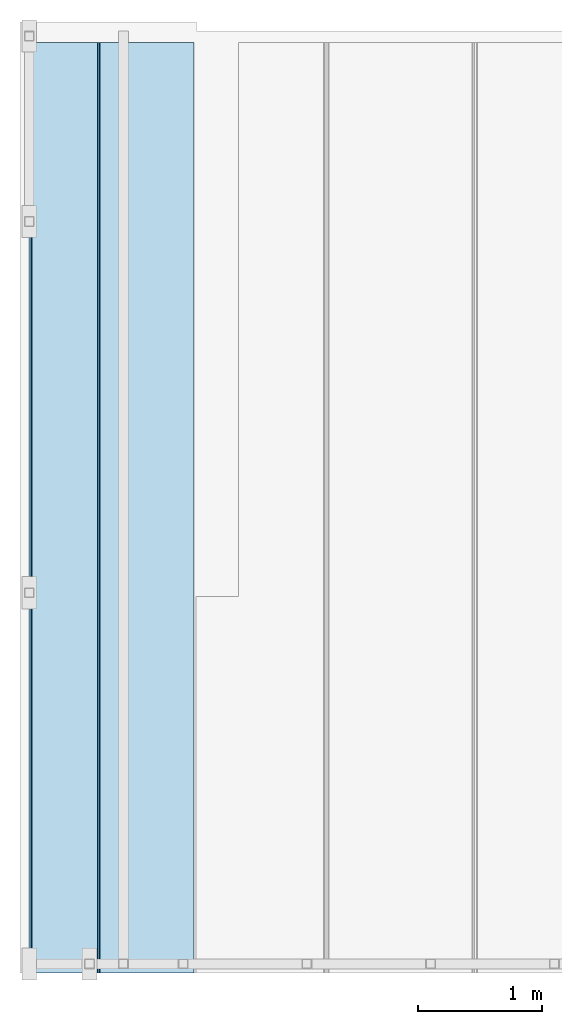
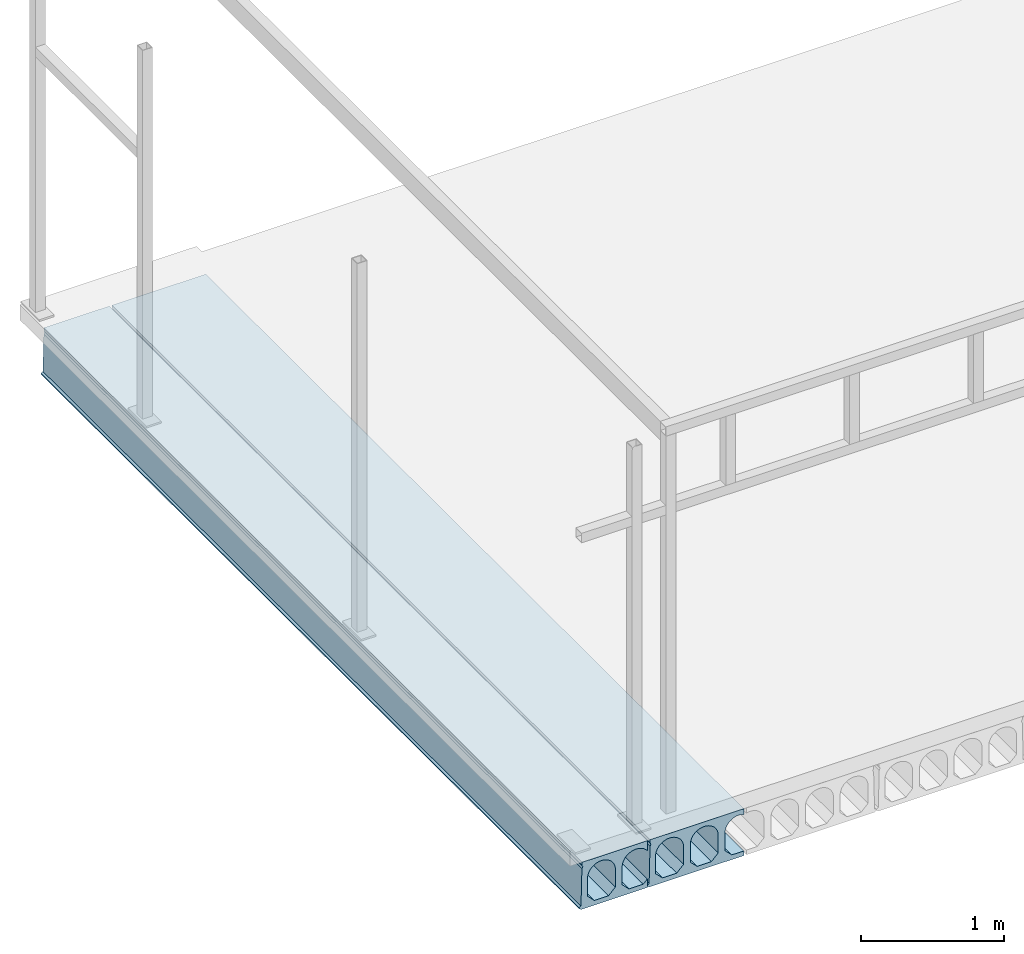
# One storey, part 6 of 20: 2 slabs.
"""IFC2X3 building model written with IfcOpenShell, lengths in millimetres."""

from ifc_helpers import new_model, entity, si_unit, converted_unit, derived_unit, direction, frame, origin_with_axes, place, context, subcontext, project, spatial, faceted_brep, type_object, element, save


model = new_model("IFC2X3")

# Units and contexts
model_context = context("Model", 3, precision=0.01, world=frame((0.0, 4.29681676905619e-09, 0.0)), true_north=direction((4.01073788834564e-13, 1.0)))
plan_context = context("Plan", 3, precision=0.01, world=frame((0.0, 4.29681676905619e-09, 0.0)), true_north=direction((4.01073788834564e-13, 1.0)))
body_context = subcontext(model_context, "Body", "Model", "MODEL_VIEW")
ifc_project = project(units=[converted_unit("PLANEANGLEUNIT", "DEGREE", entity("IfcPositiveLengthMeasure", 0.0174532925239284), si_unit("PLANEANGLEUNIT", "RADIAN"), dimensions=[0, 0, 0, 0, 0, 0, 0]), si_unit("AREAUNIT", "SQUARE_METRE"), si_unit("LENGTHUNIT", "METRE", prefix="MILLI"), si_unit("MASSUNIT", "GRAM", prefix="KILO"), si_unit("POWERUNIT", "WATT"), si_unit("PRESSUREUNIT", "PASCAL", prefix="KILO"), si_unit("FORCEUNIT", "NEWTON", prefix="KILO"), si_unit("ELECTRICVOLTAGEUNIT", "VOLT"), si_unit("ELECTRICCURRENTUNIT", "AMPERE"), si_unit("THERMODYNAMICTEMPERATUREUNIT", "DEGREE_CELSIUS"), si_unit("TIMEUNIT", "SECOND"), si_unit("VOLUMEUNIT", "CUBIC_METRE"), derived_unit("LINEARVELOCITYUNIT", [(si_unit("LENGTHUNIT", "METRE"), 1), (si_unit("TIMEUNIT", "SECOND"), -1)]), derived_unit("VOLUMETRICFLOWRATEUNIT", [(si_unit("VOLUMEUNIT", "CUBIC_METRE"), 1), (si_unit("TIMEUNIT", "SECOND"), -1)]), derived_unit("THERMALTRANSMITTANCEUNIT", [(si_unit("POWERUNIT", "WATT"), 1), (si_unit("THERMODYNAMICTEMPERATUREUNIT", "KELVIN"), -1), (si_unit("AREAUNIT", "SQUARE_METRE"), -1)]), derived_unit("SOUNDPRESSUREUNIT", [(si_unit("PRESSUREUNIT", "PASCAL"), 1)])], contexts=[model_context, plan_context])

# Site, building, storey
site_placement = place(None, frame((0.0, -4.29681676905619e-09, 0.0), z_axis=(0.0, 0.0, 1.0), x_axis=(1.0, 0.0, 0.0)))
site = spatial("IfcSite", under=ifc_project, at=site_placement, Name="Gardermoen", CompositionType="ELEMENT")
building_placement = place(site_placement, frame((0.0, 4.29681676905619e-09, 0.0), z_axis=(0.0, 0.0, 1.0), x_axis=(1.0, 0.0, 0.0)))
building = spatial("IfcBuilding", under=site, at=building_placement, Name="TS", CompositionType="ELEMENT")
storey_placement = place(building_placement, origin_with_axes())
storey = spatial("IfcBuildingStorey", under=building, at=storey_placement, Name="D", CompositionType="ELEMENT", Elevation=0.0)

# Slabs
slab_type = type_object("IfcSlabType", Name="HD400", PredefinedType="NOTDEFINED")
slab_1_placement = place(storey_placement, frame((595599.999766, 396739.995625, 203600.0), z_axis=(0.0, 0.0, 1.0), x_axis=(0.0, 1.0, 0.0)))
element("IfcSlab", 1, at=slab_1_placement, inside=storey, type_object=slab_type, Name="HULLDEKKE", ObjectType="HD400", PredefinedType="FLOOR", context=body_context, shape_type="Brep", body=[
    faceted_brep([(996.504375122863, 51.2216926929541, 116.598930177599), (996.504375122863, 49.9964178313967, 114.882825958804), (8520.0, 49.9964178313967, 114.882825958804), (8520.0, 51.2216926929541, 116.598930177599), (996.504375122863, 57.2310600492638, 123.694176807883), (8520.0, 57.2310600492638, 123.694176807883), (996.504375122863, 63.8058231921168, 130.268939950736), (8520.0, 63.8058231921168, 130.268939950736), (996.504375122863, 70.9010698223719, 136.278307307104), (8520.0, 70.9010698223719, 136.278307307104), (996.504375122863, 78.4683322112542, 141.681228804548), (8520.0, 78.4683322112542, 141.681228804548), (996.504375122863, 86.4559182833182, 146.440797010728), (8520.0, 86.4559182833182, 146.440797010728), (996.504375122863, 94.8092647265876, 150.524499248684), (8520.0, 94.8092647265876, 150.524499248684), (996.504375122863, 103.471309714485, 153.904439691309), (8520.0, 103.471309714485, 153.904439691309), (996.504375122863, 112.382882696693, 156.55752991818), (8520.0, 112.382882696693, 156.55752991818), (996.504375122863, 121.483108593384, 158.465646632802), (8520.0, 121.483108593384, 158.465646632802), (996.504375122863, 130.709823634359, 159.615755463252), (8520.0, 130.709823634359, 159.615755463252), (996.504375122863, 140.0, 160.0), (8520.0, 140.0, 160.0), (996.504375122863, 149.290176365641, 159.615755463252), (8520.0, 149.290176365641, 159.615755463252), (996.504375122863, 158.516891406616, 158.465646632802), (8520.0, 158.516891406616, 158.465646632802), (996.504375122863, 167.617117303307, 156.55752991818), (8520.0, 167.617117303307, 156.55752991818), (996.504375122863, 176.528690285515, 153.904439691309), (8520.0, 176.528690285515, 153.904439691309), (996.504375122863, 185.190735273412, 150.524499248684), (8520.0, 185.190735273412, 150.524499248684), (996.504375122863, 193.544081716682, 146.440797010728), (8520.0, 193.544081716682, 146.440797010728), (996.504375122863, 201.531667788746, 141.681228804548), (8520.0, 201.531667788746, 141.681228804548), (996.504375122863, 209.098930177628, 136.278307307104), (8520.0, 209.098930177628, 136.278307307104), (996.504375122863, 216.194176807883, 130.268939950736), (8520.0, 216.194176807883, 130.268939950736), (996.504375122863, 222.768939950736, 123.694176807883), (8520.0, 222.768939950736, 123.694176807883), (996.504375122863, 228.778307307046, 116.598930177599), (8520.0, 228.778307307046, 116.598930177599), (996.504375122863, 234.181228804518, 109.031667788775), (8520.0, 234.181228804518, 109.031667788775), (996.504375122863, 238.940797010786, 101.044081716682), (8520.0, 238.940797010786, 101.044081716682), (996.504375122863, 243.024499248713, 92.6907352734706), (8520.0, 243.024499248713, 92.6907352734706), (996.504375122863, 246.404439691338, 84.028690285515), (8520.0, 246.404439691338, 84.028690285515), (996.504375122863, 249.057529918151, 75.1171173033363), (8520.0, 249.057529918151, 75.1171173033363), (996.504375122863, 250.965646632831, 66.0168914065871), (8520.0, 250.965646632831, 66.0168914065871), (996.504375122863, 252.115755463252, 56.7901763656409), (8520.0, 252.115755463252, 56.7901763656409), (996.504375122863, 252.5, 47.5), (8520.0, 252.5, 47.5), (996.504375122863, 252.5, -105.0), (8520.0, 252.5, -105.0), (996.504375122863, 197.5, -160.0), (8520.0, 197.5, -160.0), (996.504375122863, 82.5, -160.0), (8520.0, 82.5, -160.0), (996.504375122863, 49.9964178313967, -127.496417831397), (8520.0, 49.9964178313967, -127.496417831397), (996.504375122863, 49.9964178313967, -200.0), (8520.0, 49.9964178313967, -200.0), (996.504375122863, 583.380004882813, -200.0), (8520.0, 583.380004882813, -200.0), (996.504375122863, 600.0, -190.0), (8520.0, 600.0, -190.0), (996.504375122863, 600.0, -180.0), (8520.0, 600.0, -180.0), (996.504375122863, 585.0, -170.0), (8520.0, 585.0, -170.0), (996.504375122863, 577.5, 145.0), (8520.0, 577.5, 145.0), (996.504375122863, 570.0, 160.0), (8520.0, 570.0, 160.0), (996.504375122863, 577.5, 175.0), (8520.0, 577.5, 175.0), (996.504375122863, 577.5, 200.0), (8520.0, 577.5, 200.0), (996.504375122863, 307.5, -105.0), (996.504375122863, 362.5, -160.0), (8520.0, 362.5, -160.0), (8520.0, 307.5, -105.0), (996.504375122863, 307.5, 47.5), (8520.0, 307.5, 47.5), (996.504375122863, 307.884244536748, 56.7901763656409), (8520.0, 307.884244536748, 56.7901763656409), (996.504375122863, 309.034353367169, 66.0168914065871), (8520.0, 309.034353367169, 66.0168914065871), (996.504375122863, 310.942470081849, 75.1171173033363), (8520.0, 310.942470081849, 75.1171173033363), (996.504375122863, 313.595560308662, 84.028690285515), (8520.0, 313.595560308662, 84.028690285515), (996.504375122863, 316.975500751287, 92.6907352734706), (8520.0, 316.975500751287, 92.6907352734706), (996.504375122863, 321.059202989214, 101.044081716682), (8520.0, 321.059202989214, 101.044081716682), (996.504375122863, 325.818771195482, 109.031667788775), (8520.0, 325.818771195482, 109.031667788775), (996.504375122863, 331.221692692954, 116.598930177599), (8520.0, 331.221692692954, 116.598930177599), (996.504375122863, 337.231060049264, 123.694176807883), (8520.0, 337.231060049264, 123.694176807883), (996.504375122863, 343.805823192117, 130.268939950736), (8520.0, 343.805823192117, 130.268939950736), (996.504375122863, 350.901069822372, 136.278307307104), (8520.0, 350.901069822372, 136.278307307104), (996.504375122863, 358.468332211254, 141.681228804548), (8520.0, 358.468332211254, 141.681228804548), (996.504375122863, 366.455918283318, 146.440797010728), (8520.0, 366.455918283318, 146.440797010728), (996.504375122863, 374.809264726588, 150.524499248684), (8520.0, 374.809264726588, 150.524499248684), (996.504375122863, 383.471309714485, 153.904439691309), (8520.0, 383.471309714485, 153.904439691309), (996.504375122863, 392.382882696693, 156.55752991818), (8520.0, 392.382882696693, 156.55752991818), (996.504375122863, 401.483108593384, 158.465646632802), (8520.0, 401.483108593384, 158.465646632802), (996.504375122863, 410.709823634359, 159.615755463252), (8520.0, 410.709823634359, 159.615755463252), (996.504375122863, 420.0, 160.0), (8520.0, 420.0, 160.0), (996.504375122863, 429.290176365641, 159.615755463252), (8520.0, 429.290176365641, 159.615755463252), (996.504375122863, 438.516891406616, 158.465646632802), (8520.0, 438.516891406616, 158.465646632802), (996.504375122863, 447.617117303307, 156.55752991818), (8520.0, 447.617117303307, 156.55752991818), (996.504375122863, 456.528690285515, 153.904439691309), (8520.0, 456.528690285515, 153.904439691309), (996.504375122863, 465.190735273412, 150.524499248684), (8520.0, 465.190735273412, 150.524499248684), (996.504375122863, 473.544081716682, 146.440797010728), (8520.0, 473.544081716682, 146.440797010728), (996.504375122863, 481.531667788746, 141.681228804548), (8520.0, 481.531667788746, 141.681228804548), (996.504375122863, 489.098930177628, 136.278307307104), (8520.0, 489.098930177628, 136.278307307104), (996.504375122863, 496.194176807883, 130.268939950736), (8520.0, 496.194176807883, 130.268939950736), (996.504375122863, 502.768939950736, 123.694176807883), (8520.0, 502.768939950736, 123.694176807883), (996.504375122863, 508.778307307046, 116.598930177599), (8520.0, 508.778307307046, 116.598930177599), (996.504375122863, 514.181228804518, 109.031667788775), (8520.0, 514.181228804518, 109.031667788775), (996.504375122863, 518.940797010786, 101.044081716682), (8520.0, 518.940797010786, 101.044081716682), (996.504375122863, 523.024499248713, 92.6907352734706), (8520.0, 523.024499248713, 92.6907352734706), (996.504375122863, 526.404439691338, 84.028690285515), (8520.0, 526.404439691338, 84.028690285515), (996.504375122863, 529.057529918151, 75.1171173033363), (8520.0, 529.057529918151, 75.1171173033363), (996.504375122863, 530.965646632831, 66.0168914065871), (8520.0, 530.965646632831, 66.0168914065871), (996.504375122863, 532.115755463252, 56.7901763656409), (8520.0, 532.115755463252, 56.7901763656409), (996.504375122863, 532.5, 47.5), (8520.0, 532.5, 47.5), (996.504375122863, 532.5, -105.0), (8520.0, 532.5, -105.0), (996.504375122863, 477.5, -160.0), (8520.0, 477.5, -160.0), (8520.0, 49.9964178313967, 200.0), (996.504375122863, 49.9964178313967, 200.0)], [[[0, 1, 2, 3]], [[4, 0, 3, 5]], [[6, 4, 5, 7]], [[8, 6, 7, 9]], [[10, 8, 9, 11]], [[12, 10, 11, 13]], [[14, 12, 13, 15]], [[16, 14, 15, 17]], [[18, 16, 17, 19]], [[20, 18, 19, 21]], [[22, 20, 21, 23]], [[24, 22, 23, 25]], [[26, 24, 25, 27]], [[28, 26, 27, 29]], [[30, 28, 29, 31]], [[32, 30, 31, 33]], [[34, 32, 33, 35]], [[36, 34, 35, 37]], [[38, 36, 37, 39]], [[40, 38, 39, 41]], [[42, 40, 41, 43]], [[44, 42, 43, 45]], [[46, 44, 45, 47]], [[48, 46, 47, 49]], [[50, 48, 49, 51]], [[52, 50, 51, 53]], [[54, 52, 53, 55]], [[56, 54, 55, 57]], [[58, 56, 57, 59]], [[60, 58, 59, 61]], [[62, 60, 61, 63]], [[64, 62, 63, 65]], [[66, 64, 65, 67]], [[68, 66, 67, 69]], [[70, 68, 69, 71]], [[72, 70, 71, 73]], [[74, 72, 73, 75]], [[76, 74, 75, 77]], [[78, 76, 77, 79]], [[80, 78, 79, 81]], [[82, 80, 81, 83]], [[84, 82, 83, 85]], [[86, 84, 85, 87]], [[88, 86, 87, 89]], [[90, 91, 92, 93]], [[94, 90, 93, 95]], [[96, 94, 95, 97]], [[98, 96, 97, 99]], [[100, 98, 99, 101]], [[102, 100, 101, 103]], [[104, 102, 103, 105]], [[106, 104, 105, 107]], [[108, 106, 107, 109]], [[110, 108, 109, 111]], [[112, 110, 111, 113]], [[114, 112, 113, 115]], [[116, 114, 115, 117]], [[118, 116, 117, 119]], [[120, 118, 119, 121]], [[122, 120, 121, 123]], [[124, 122, 123, 125]], [[126, 124, 125, 127]], [[128, 126, 127, 129]], [[130, 128, 129, 131]], [[132, 130, 131, 133]], [[134, 132, 133, 135]], [[136, 134, 135, 137]], [[138, 136, 137, 139]], [[140, 138, 139, 141]], [[142, 140, 141, 143]], [[144, 142, 143, 145]], [[146, 144, 145, 147]], [[148, 146, 147, 149]], [[150, 148, 149, 151]], [[152, 150, 151, 153]], [[154, 152, 153, 155]], [[156, 154, 155, 157]], [[158, 156, 157, 159]], [[160, 158, 159, 161]], [[162, 160, 161, 163]], [[164, 162, 163, 165]], [[166, 164, 165, 167]], [[168, 166, 167, 169]], [[170, 168, 169, 171]], [[172, 170, 171, 173]], [[174, 172, 173, 175]], [[2, 176, 89, 87, 85, 83, 81, 79, 77, 75, 73, 71, 69, 67, 65, 63, 61, 59, 57, 55, 53, 51, 49, 47, 45, 43, 41, 39, 37, 35, 33, 31, 29, 27, 25, 23, 21, 19, 17, 15, 13, 11, 9, 7, 5, 3], [92, 175, 173, 171, 169, 167, 165, 163, 161, 159, 157, 155, 153, 151, 149, 147, 145, 143, 141, 139, 137, 135, 133, 131, 129, 127, 125, 123, 121, 119, 117, 115, 113, 111, 109, 107, 105, 103, 101, 99, 97, 95, 93]], [[91, 174, 175, 92]], [[177, 88, 89, 176]], [[1, 177, 176, 2]], [[4, 6, 8, 10, 12, 14, 16, 18, 20, 22, 24, 26, 28, 30, 32, 34, 36, 38, 40, 42, 44, 46, 48, 50, 52, 54, 56, 58, 60, 62, 64, 66, 68, 70, 72, 74, 76, 78, 80, 82, 84, 86, 88, 177, 1, 0], [94, 96, 98, 100, 102, 104, 106, 108, 110, 112, 114, 116, 118, 120, 122, 124, 126, 128, 130, 132, 134, 136, 138, 140, 142, 144, 146, 148, 150, 152, 154, 156, 158, 160, 162, 164, 166, 168, 170, 172, 174, 91, 90]]], orient=[[False], [False], [False], [False], [False], [False], [False], [False], [False], [False], [False], [False], [False], [False], [False], [False], [False], [False], [False], [False], [False], [False], [False], [False], [False], [False], [False], [False], [False], [False], [False], [False], [False], [False], [False], [False], [False], [False], [False], [False], [False], [False], [False], [False], [False], [False], [False], [False], [False], [False], [False], [False], [False], [False], [False], [False], [False], [False], [False], [False], [False], [False], [False], [False], [False], [False], [False], [False], [False], [False], [False], [False], [False], [False], [False], [False], [False], [False], [False], [False], [False], [False], [False], [False], [False], [False], [False, False], [False], [False], [False], [False, False]]),
])
slab_2_placement = place(storey_placement, frame((596150.019766, 396739.995625, 203600.0), z_axis=(0.0, 0.0, 1.0), x_axis=(0.0, 1.0, 0.0)))
element("IfcSlab", 2, at=slab_2_placement, inside=storey, type_object=slab_type, Name="HULLDEKKE", ObjectType="HD400", PredefinedType="FLOOR", context=body_context, shape_type="Brep", body=[
    faceted_brep([(996.504375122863, -176.528690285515, 153.904439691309), (996.504375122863, -180.003582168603, 152.548532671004), (8520.0, -180.003582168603, 152.548532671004), (8520.0, -176.528690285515, 153.904439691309), (996.504375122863, -167.617117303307, 156.55752991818), (8520.0, -167.617117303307, 156.55752991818), (996.504375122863, -158.516891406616, 158.465646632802), (8520.0, -158.516891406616, 158.465646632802), (996.504375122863, -149.290176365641, 159.615755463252), (8520.0, -149.290176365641, 159.615755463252), (996.504375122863, -140.0, 160.0), (8520.0, -140.0, 160.0), (996.504375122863, -130.709823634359, 159.615755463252), (8520.0, -130.709823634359, 159.615755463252), (996.504375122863, -121.483108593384, 158.465646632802), (8520.0, -121.483108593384, 158.465646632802), (996.504375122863, -112.382882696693, 156.55752991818), (8520.0, -112.382882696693, 156.55752991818), (996.504375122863, -103.471309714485, 153.904439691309), (8520.0, -103.471309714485, 153.904439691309), (996.504375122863, -94.8092647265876, 150.524499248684), (8520.0, -94.8092647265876, 150.524499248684), (996.504375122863, -86.4559182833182, 146.440797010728), (8520.0, -86.4559182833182, 146.440797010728), (996.504375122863, -78.4683322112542, 141.681228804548), (8520.0, -78.4683322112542, 141.681228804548), (996.504375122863, -70.9010698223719, 136.278307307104), (8520.0, -70.9010698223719, 136.278307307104), (996.504375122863, -63.8058231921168, 130.268939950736), (8520.0, -63.8058231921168, 130.268939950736), (996.504375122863, -57.2310600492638, 123.694176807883), (8520.0, -57.2310600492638, 123.694176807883), (996.504375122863, -51.2216926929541, 116.598930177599), (8520.0, -51.2216926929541, 116.598930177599), (996.504375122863, -45.8187711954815, 109.031667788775), (8520.0, -45.8187711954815, 109.031667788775), (996.504375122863, -41.0592029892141, 101.044081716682), (8520.0, -41.0592029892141, 101.044081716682), (996.504375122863, -36.9755007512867, 92.6907352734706), (8520.0, -36.9755007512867, 92.6907352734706), (996.504375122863, -33.5955603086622, 84.028690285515), (8520.0, -33.5955603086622, 84.028690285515), (996.504375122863, -30.942470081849, 75.1171173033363), (8520.0, -30.942470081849, 75.1171173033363), (996.504375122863, -29.0343533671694, 66.0168914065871), (8520.0, -29.0343533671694, 66.0168914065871), (996.504375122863, -27.8842445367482, 56.7901763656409), (8520.0, -27.8842445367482, 56.7901763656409), (996.504375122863, -27.5, 47.5), (8520.0, -27.5, 47.5), (996.504375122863, -27.5, -105.0), (8520.0, -27.5, -105.0), (996.504375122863, -82.5, -160.0), (8520.0, -82.5, -160.0), (996.504375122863, -180.003582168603, -160.0), (8520.0, -180.003582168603, -160.0), (996.504375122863, -180.003582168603, -200.0), (8520.0, -180.003582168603, -200.0), (996.504375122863, 583.380004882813, -200.0), (8520.0, 583.380004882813, -200.0), (996.504375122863, 600.0, -190.0), (8520.0, 600.0, -190.0), (996.504375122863, 600.0, -180.0), (8520.0, 600.0, -180.0), (996.504375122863, 585.0, -170.0), (8520.0, 585.0, -170.0), (996.504375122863, 577.5, 145.0), (8520.0, 577.5, 145.0), (996.504375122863, 570.0, 160.0), (8520.0, 570.0, 160.0), (996.504375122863, 577.5, 175.0), (8520.0, 577.5, 175.0), (996.504375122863, 577.5, 200.0), (8520.0, 577.5, 200.0), (996.504375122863, 27.5, -105.0), (996.504375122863, 82.5, -160.0), (8520.0, 82.5, -160.0), (8520.0, 27.5, -105.0), (996.504375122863, 27.5, 47.5), (8520.0, 27.5, 47.5), (996.504375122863, 27.8842445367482, 56.7901763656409), (8520.0, 27.8842445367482, 56.7901763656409), (996.504375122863, 29.0343533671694, 66.0168914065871), (8520.0, 29.0343533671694, 66.0168914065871), (996.504375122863, 30.942470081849, 75.1171173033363), (8520.0, 30.942470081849, 75.1171173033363), (996.504375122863, 33.5955603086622, 84.028690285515), (8520.0, 33.5955603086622, 84.028690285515), (996.504375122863, 36.9755007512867, 92.6907352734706), (8520.0, 36.9755007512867, 92.6907352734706), (996.504375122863, 41.0592029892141, 101.044081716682), (8520.0, 41.0592029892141, 101.044081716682), (996.504375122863, 45.8187711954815, 109.031667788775), (8520.0, 45.8187711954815, 109.031667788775), (996.504375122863, 51.2216926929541, 116.598930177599), (8520.0, 51.2216926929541, 116.598930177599), (996.504375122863, 57.2310600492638, 123.694176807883), (8520.0, 57.2310600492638, 123.694176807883), (996.504375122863, 63.8058231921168, 130.268939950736), (8520.0, 63.8058231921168, 130.268939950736), (996.504375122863, 70.9010698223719, 136.278307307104), (8520.0, 70.9010698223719, 136.278307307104), (996.504375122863, 78.4683322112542, 141.681228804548), (8520.0, 78.4683322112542, 141.681228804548), (996.504375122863, 86.4559182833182, 146.440797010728), (8520.0, 86.4559182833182, 146.440797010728), (996.504375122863, 94.8092647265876, 150.524499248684), (8520.0, 94.8092647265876, 150.524499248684), (996.504375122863, 103.471309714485, 153.904439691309), (8520.0, 103.471309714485, 153.904439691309), (996.504375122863, 112.382882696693, 156.55752991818), (8520.0, 112.382882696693, 156.55752991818), (996.504375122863, 121.483108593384, 158.465646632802), (8520.0, 121.483108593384, 158.465646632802), (996.504375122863, 130.709823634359, 159.615755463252), (8520.0, 130.709823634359, 159.615755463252), (996.504375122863, 140.0, 160.0), (8520.0, 140.0, 160.0), (996.504375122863, 149.290176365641, 159.615755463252), (8520.0, 149.290176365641, 159.615755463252), (996.504375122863, 158.516891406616, 158.465646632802), (8520.0, 158.516891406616, 158.465646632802), (996.504375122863, 167.617117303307, 156.55752991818), (8520.0, 167.617117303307, 156.55752991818), (996.504375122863, 176.528690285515, 153.904439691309), (8520.0, 176.528690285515, 153.904439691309), (996.504375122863, 185.190735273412, 150.524499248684), (8520.0, 185.190735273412, 150.524499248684), (996.504375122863, 193.544081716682, 146.440797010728), (8520.0, 193.544081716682, 146.440797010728), (996.504375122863, 201.531667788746, 141.681228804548), (8520.0, 201.531667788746, 141.681228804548), (996.504375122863, 209.098930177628, 136.278307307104), (8520.0, 209.098930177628, 136.278307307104), (996.504375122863, 216.194176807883, 130.268939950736), (8520.0, 216.194176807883, 130.268939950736), (996.504375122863, 222.768939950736, 123.694176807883), (8520.0, 222.768939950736, 123.694176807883), (996.504375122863, 228.778307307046, 116.598930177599), (8520.0, 228.778307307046, 116.598930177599), (996.504375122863, 234.181228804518, 109.031667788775), (8520.0, 234.181228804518, 109.031667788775), (996.504375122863, 238.940797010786, 101.044081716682), (8520.0, 238.940797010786, 101.044081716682), (996.504375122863, 243.024499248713, 92.6907352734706), (8520.0, 243.024499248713, 92.6907352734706), (996.504375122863, 246.404439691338, 84.028690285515), (8520.0, 246.404439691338, 84.028690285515), (996.504375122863, 249.057529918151, 75.1171173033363), (8520.0, 249.057529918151, 75.1171173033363), (996.504375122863, 250.965646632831, 66.0168914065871), (8520.0, 250.965646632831, 66.0168914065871), (996.504375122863, 252.115755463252, 56.7901763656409), (8520.0, 252.115755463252, 56.7901763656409), (996.504375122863, 252.5, 47.5), (8520.0, 252.5, 47.5), (996.504375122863, 252.5, -105.0), (8520.0, 252.5, -105.0), (996.504375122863, 197.5, -160.0), (8520.0, 197.5, -160.0), (996.504375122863, 477.5, -160.0), (996.504375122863, 532.5, -105.0), (8520.0, 532.5, -105.0), (8520.0, 477.5, -160.0), (996.504375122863, 532.5, 47.5), (8520.0, 532.5, 47.5), (996.504375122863, 532.115755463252, 56.7901763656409), (8520.0, 532.115755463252, 56.7901763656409), (996.504375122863, 530.965646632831, 66.0168914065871), (8520.0, 530.965646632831, 66.0168914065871), (996.504375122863, 529.057529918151, 75.1171173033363), (8520.0, 529.057529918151, 75.1171173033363), (996.504375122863, 526.404439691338, 84.028690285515), (8520.0, 526.404439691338, 84.028690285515), (996.504375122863, 523.024499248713, 92.6907352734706), (8520.0, 523.024499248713, 92.6907352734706), (996.504375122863, 518.940797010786, 101.044081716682), (8520.0, 518.940797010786, 101.044081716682), (996.504375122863, 514.181228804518, 109.031667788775), (8520.0, 514.181228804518, 109.031667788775), (996.504375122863, 508.778307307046, 116.598930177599), (8520.0, 508.778307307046, 116.598930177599), (996.504375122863, 502.768939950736, 123.694176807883), (8520.0, 502.768939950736, 123.694176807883), (996.504375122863, 496.194176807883, 130.268939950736), (8520.0, 496.194176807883, 130.268939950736), (996.504375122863, 489.098930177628, 136.278307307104), (8520.0, 489.098930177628, 136.278307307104), (996.504375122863, 481.531667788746, 141.681228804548), (8520.0, 481.531667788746, 141.681228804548), (996.504375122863, 473.544081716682, 146.440797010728), (8520.0, 473.544081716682, 146.440797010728), (996.504375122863, 465.190735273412, 150.524499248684), (8520.0, 465.190735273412, 150.524499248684), (996.504375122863, 456.528690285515, 153.904439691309), (8520.0, 456.528690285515, 153.904439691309), (996.504375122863, 447.617117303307, 156.55752991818), (8520.0, 447.617117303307, 156.55752991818), (996.504375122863, 438.516891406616, 158.465646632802), (8520.0, 438.516891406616, 158.465646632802), (996.504375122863, 429.290176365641, 159.615755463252), (8520.0, 429.290176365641, 159.615755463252), (996.504375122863, 420.0, 160.0), (8520.0, 420.0, 160.0), (996.504375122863, 410.709823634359, 159.615755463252), (8520.0, 410.709823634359, 159.615755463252), (996.504375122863, 401.483108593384, 158.465646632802), (8520.0, 401.483108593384, 158.465646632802), (996.504375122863, 392.382882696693, 156.55752991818), (8520.0, 392.382882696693, 156.55752991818), (996.504375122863, 383.471309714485, 153.904439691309), (8520.0, 383.471309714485, 153.904439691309), (996.504375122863, 374.809264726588, 150.524499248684), (8520.0, 374.809264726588, 150.524499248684), (996.504375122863, 366.455918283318, 146.440797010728), (8520.0, 366.455918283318, 146.440797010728), (996.504375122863, 358.468332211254, 141.681228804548), (8520.0, 358.468332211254, 141.681228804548), (996.504375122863, 350.901069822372, 136.278307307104), (8520.0, 350.901069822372, 136.278307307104), (996.504375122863, 343.805823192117, 130.268939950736), (8520.0, 343.805823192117, 130.268939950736), (996.504375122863, 337.231060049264, 123.694176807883), (8520.0, 337.231060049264, 123.694176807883), (996.504375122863, 331.221692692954, 116.598930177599), (8520.0, 331.221692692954, 116.598930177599), (996.504375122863, 325.818771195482, 109.031667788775), (8520.0, 325.818771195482, 109.031667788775), (996.504375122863, 321.059202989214, 101.044081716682), (8520.0, 321.059202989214, 101.044081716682), (996.504375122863, 316.975500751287, 92.6907352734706), (8520.0, 316.975500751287, 92.6907352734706), (996.504375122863, 313.595560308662, 84.028690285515), (8520.0, 313.595560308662, 84.028690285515), (996.504375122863, 310.942470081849, 75.1171173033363), (8520.0, 310.942470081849, 75.1171173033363), (996.504375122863, 309.034353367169, 66.0168914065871), (8520.0, 309.034353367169, 66.0168914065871), (996.504375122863, 307.884244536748, 56.7901763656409), (8520.0, 307.884244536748, 56.7901763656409), (996.504375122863, 307.5, 47.5), (8520.0, 307.5, 47.5), (996.504375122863, 307.5, -105.0), (8520.0, 307.5, -105.0), (996.504375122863, 362.5, -160.0), (8520.0, 362.5, -160.0), (8520.0, -180.003582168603, 200.0), (996.504375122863, -180.003582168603, 200.0)], [[[0, 1, 2, 3]], [[4, 0, 3, 5]], [[6, 4, 5, 7]], [[8, 6, 7, 9]], [[10, 8, 9, 11]], [[12, 10, 11, 13]], [[14, 12, 13, 15]], [[16, 14, 15, 17]], [[18, 16, 17, 19]], [[20, 18, 19, 21]], [[22, 20, 21, 23]], [[24, 22, 23, 25]], [[26, 24, 25, 27]], [[28, 26, 27, 29]], [[30, 28, 29, 31]], [[32, 30, 31, 33]], [[34, 32, 33, 35]], [[36, 34, 35, 37]], [[38, 36, 37, 39]], [[40, 38, 39, 41]], [[42, 40, 41, 43]], [[44, 42, 43, 45]], [[46, 44, 45, 47]], [[48, 46, 47, 49]], [[50, 48, 49, 51]], [[52, 50, 51, 53]], [[54, 52, 53, 55]], [[56, 54, 55, 57]], [[58, 56, 57, 59]], [[60, 58, 59, 61]], [[62, 60, 61, 63]], [[64, 62, 63, 65]], [[66, 64, 65, 67]], [[68, 66, 67, 69]], [[70, 68, 69, 71]], [[72, 70, 71, 73]], [[74, 75, 76, 77]], [[78, 74, 77, 79]], [[80, 78, 79, 81]], [[82, 80, 81, 83]], [[84, 82, 83, 85]], [[86, 84, 85, 87]], [[88, 86, 87, 89]], [[90, 88, 89, 91]], [[92, 90, 91, 93]], [[94, 92, 93, 95]], [[96, 94, 95, 97]], [[98, 96, 97, 99]], [[100, 98, 99, 101]], [[102, 100, 101, 103]], [[104, 102, 103, 105]], [[106, 104, 105, 107]], [[108, 106, 107, 109]], [[110, 108, 109, 111]], [[112, 110, 111, 113]], [[114, 112, 113, 115]], [[116, 114, 115, 117]], [[118, 116, 117, 119]], [[120, 118, 119, 121]], [[122, 120, 121, 123]], [[124, 122, 123, 125]], [[126, 124, 125, 127]], [[128, 126, 127, 129]], [[130, 128, 129, 131]], [[132, 130, 131, 133]], [[134, 132, 133, 135]], [[136, 134, 135, 137]], [[138, 136, 137, 139]], [[140, 138, 139, 141]], [[142, 140, 141, 143]], [[144, 142, 143, 145]], [[146, 144, 145, 147]], [[148, 146, 147, 149]], [[150, 148, 149, 151]], [[152, 150, 151, 153]], [[154, 152, 153, 155]], [[156, 154, 155, 157]], [[158, 156, 157, 159]], [[160, 161, 162, 163]], [[161, 164, 165, 162]], [[164, 166, 167, 165]], [[166, 168, 169, 167]], [[168, 170, 171, 169]], [[170, 172, 173, 171]], [[172, 174, 175, 173]], [[174, 176, 177, 175]], [[176, 178, 179, 177]], [[178, 180, 181, 179]], [[180, 182, 183, 181]], [[182, 184, 185, 183]], [[184, 186, 187, 185]], [[186, 188, 189, 187]], [[188, 190, 191, 189]], [[190, 192, 193, 191]], [[192, 194, 195, 193]], [[194, 196, 197, 195]], [[196, 198, 199, 197]], [[198, 200, 201, 199]], [[200, 202, 203, 201]], [[202, 204, 205, 203]], [[204, 206, 207, 205]], [[206, 208, 209, 207]], [[208, 210, 211, 209]], [[210, 212, 213, 211]], [[212, 214, 215, 213]], [[214, 216, 217, 215]], [[216, 218, 219, 217]], [[218, 220, 221, 219]], [[220, 222, 223, 221]], [[222, 224, 225, 223]], [[224, 226, 227, 225]], [[226, 228, 229, 227]], [[228, 230, 231, 229]], [[230, 232, 233, 231]], [[232, 234, 235, 233]], [[234, 236, 237, 235]], [[236, 238, 239, 237]], [[238, 240, 241, 239]], [[240, 242, 243, 241]], [[242, 244, 245, 243]], [[244, 160, 163, 245]], [[2, 246, 73, 71, 69, 67, 65, 63, 61, 59, 57, 55, 53, 51, 49, 47, 45, 43, 41, 39, 37, 35, 33, 31, 29, 27, 25, 23, 21, 19, 17, 15, 13, 11, 9, 7, 5, 3], [245, 163, 162, 165, 167, 169, 171, 173, 175, 177, 179, 181, 183, 185, 187, 189, 191, 193, 195, 197, 199, 201, 203, 205, 207, 209, 211, 213, 215, 217, 219, 221, 223, 225, 227, 229, 231, 233, 235, 237, 239, 241, 243], [76, 159, 157, 155, 153, 151, 149, 147, 145, 143, 141, 139, 137, 135, 133, 131, 129, 127, 125, 123, 121, 119, 117, 115, 113, 111, 109, 107, 105, 103, 101, 99, 97, 95, 93, 91, 89, 87, 85, 83, 81, 79, 77]], [[75, 158, 159, 76]], [[247, 72, 73, 246]], [[1, 247, 246, 2]], [[4, 6, 8, 10, 12, 14, 16, 18, 20, 22, 24, 26, 28, 30, 32, 34, 36, 38, 40, 42, 44, 46, 48, 50, 52, 54, 56, 58, 60, 62, 64, 66, 68, 70, 72, 247, 1, 0], [78, 80, 82, 84, 86, 88, 90, 92, 94, 96, 98, 100, 102, 104, 106, 108, 110, 112, 114, 116, 118, 120, 122, 124, 126, 128, 130, 132, 134, 136, 138, 140, 142, 144, 146, 148, 150, 152, 154, 156, 158, 75, 74], [244, 242, 240, 238, 236, 234, 232, 230, 228, 226, 224, 222, 220, 218, 216, 214, 212, 210, 208, 206, 204, 202, 200, 198, 196, 194, 192, 190, 188, 186, 184, 182, 180, 178, 176, 174, 172, 170, 168, 166, 164, 161, 160]]], orient=[[False], [False], [False], [False], [False], [False], [False], [False], [False], [False], [False], [False], [False], [False], [False], [False], [False], [False], [False], [False], [False], [False], [False], [False], [False], [False], [False], [False], [False], [False], [False], [False], [False], [False], [False], [False], [False], [False], [False], [False], [False], [False], [False], [False], [False], [False], [False], [False], [False], [False], [False], [False], [False], [False], [False], [False], [False], [False], [False], [False], [False], [False], [False], [False], [False], [False], [False], [False], [False], [False], [False], [False], [False], [False], [False], [False], [False], [False], [False], [False], [False], [False], [False], [False], [False], [False], [False], [False], [False], [False], [False], [False], [False], [False], [False], [False], [False], [False], [False], [False], [False], [False], [False], [False], [False], [False], [False], [False], [False], [False], [False], [False], [False], [False], [False], [False], [False], [False], [False], [False], [False], [False, False, False], [False], [False], [False], [False, False, False]]),
])

save(model, "model.ifc")
